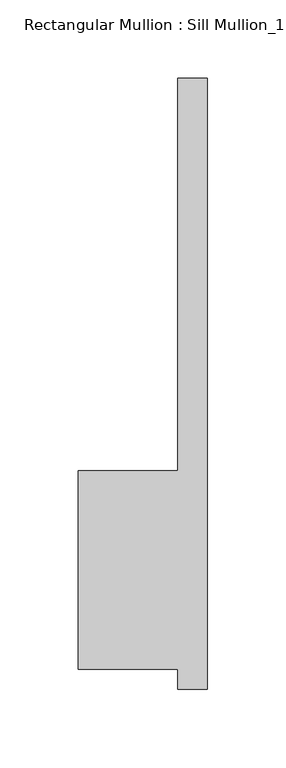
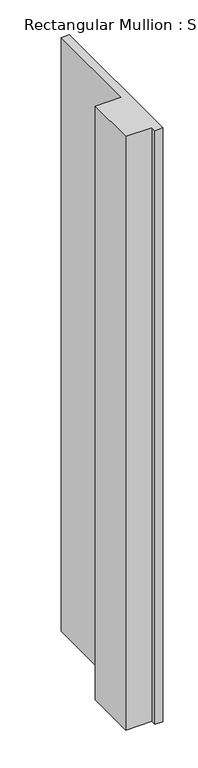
"""IFC4 building model written with IfcOpenShell, lengths in millimetres: member geometry."""

from ifc_helpers import new_model, si_unit, frame, origin, place, context, project, spatial, polyline, outline, extrude, source, transform, mapped, element, save


def member_c560cec2(model_context):
    return source(origin(), model_context, "Body", "SweptSolid", [
        extrude(outline(polyline([(-82.55, 50.8), (-19.05, 50.8), (-19.05, 301.625), (0.0, 301.625), (0.0, -88.9), (-19.05, -88.9), (-19.05, -76.2), (-82.55, -76.2), (-82.55, 50.8)])), frame((0.0, 0.0, -1511.3), z_axis=(0.0, 0.0, 1.0), x_axis=(1.0, 0.0, 0.0)), (0.0, 0.0, 1.0), 1511.3),
    ])


if __name__ == "__main__":
    model = new_model("IFC4")
    model_context = context("Model", 3, world=origin())
    ifc_project = project(units=[si_unit("LENGTHUNIT", "METRE", prefix="MILLI")], contexts=[model_context])
    site = spatial("IfcSite", under=ifc_project)
    building = spatial("IfcBuilding", under=site)
    placement = place(None, origin())
    member_shape = member_c560cec2(model_context)
    element("IfcMember", 1, ObjectType="Rectangular Mullion : Sill Mullion_15\" thick wall", at=placement, inside=building, context=model_context, shape_type="MappedRepresentation", body=[
        mapped(member_shape, transform((0.0, 0.0, 0.0), x_axis=(1.0, 0.0, 0.0), y_axis=(0.0, 1.0, 0.0), z_axis=(0.0, 0.0, 1.0))),
    ])
    save(model, "model.ifc")
